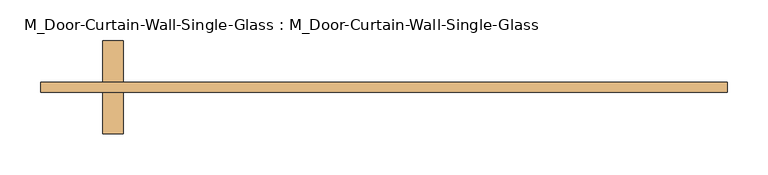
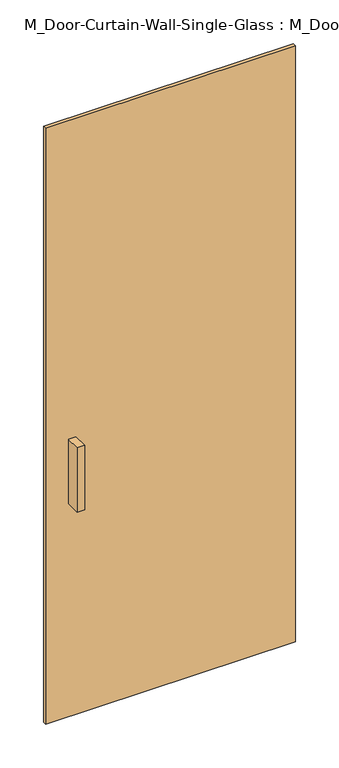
"""IFC4 building model written with IfcOpenShell, lengths in millimetres: door geometry, M_Door-Curtain-Wall-Single-Glass : M_Door-Curtain-Wall-Single-Glass."""

import ifcopenshell
import ifcopenshell.guid

model = None  # the IFC model being written
_history = None  # IfcOwnerHistory: only IFC2X3 demands one
_inside = {}  # id of a spatial element -> (the spatial element, [elements in it])
_under = {}  # id of a project, library or spatial element -> (it, [spatial elements below it])
_declared = {}  # id of a project -> (the project, [libraries it declares])
_typed = {}  # id of a type object -> (the type object, [elements of that type])
_made_of = {}  # id of a material, layer set ... -> (it, [elements and type objects made of it])


def new_model(schema):
    """Start an empty IFC model of exactly this schema.

    Asked for "IFC4X3", IfcOpenShell would pick the latest addendum, in which some entities
    have other attributes; the version numbers below select the first issue.
    IFC2X3 requires an IfcOwnerHistory on every rooted entity: one is made here for all.
    """
    global model, _history
    if schema == "IFC4X3":
        model = ifcopenshell.file(schema_version=(4, 3, 0, 0))
    else:
        model = ifcopenshell.file(schema=schema)
    _inside.clear()
    _under.clear()
    _declared.clear()
    _typed.clear()
    _made_of.clear()
    _history = None
    if model.schema == "IFC2X3":
        org = make("IfcOrganization", Name="unknown")
        user = make(
            "IfcPersonAndOrganization",
            ThePerson=make("IfcPerson", FamilyName="unknown"),
            TheOrganization=org,
        )
        app = make(
            "IfcApplication",
            ApplicationDeveloper=org,
            Version="unknown",
            ApplicationFullName="unknown",
            ApplicationIdentifier="unknown",
        )
        _history = make(
            "IfcOwnerHistory",
            OwningUser=user,
            OwningApplication=app,
            ChangeAction="ADDED",
            CreationDate=0,
        )
    return model


def make(cls, **values):
    """One entity of the class cls with the attributes given. An attribute that is None is left unset."""
    return model.create_entity(
        cls, **{name: value for name, value in values.items() if value is not None}
    )


def rooted(cls, **values):
    """An entity with a GlobalId (a new one), such as an element, a storey or a relation."""
    return make(cls, GlobalId=ifcopenshell.guid.new(), OwnerHistory=_history, **values)


def si_unit(unit_type, name, prefix=None):
    """IfcSIUnit, for example si_unit("LENGTHUNIT", "METRE", prefix="MILLI")."""
    return make("IfcSIUnit", UnitType=unit_type, Prefix=prefix, Name=name)


def assignment(units):
    """IfcUnitAssignment: the units of a project."""
    return None if units is None else make("IfcUnitAssignment", Units=units)


def point(xyz):
    """IfcCartesianPoint."""
    return None if xyz is None else make("IfcCartesianPoint", Coordinates=xyz)


def direction(xyz):
    """IfcDirection."""
    return None if xyz is None else make("IfcDirection", DirectionRatios=xyz)


def frame(location, z_axis=None, x_axis=None):
    """IfcAxis2Placement3D, a coordinate frame: its origin and axes. An axis left out is left unset."""
    return make(
        "IfcAxis2Placement3D",
        Location=point(location),
        Axis=direction(z_axis),
        RefDirection=direction(x_axis),
    )


def origin():
    """The frame at (0, 0, 0) with its axes left unset."""
    return frame((0.0, 0.0, 0.0))


def origin_with_axes():
    """The frame at (0, 0, 0) with the z axis (0, 0, 1) and the x axis (1, 0, 0) written out."""
    return frame((0.0, 0.0, 0.0), z_axis=(0.0, 0.0, 1.0), x_axis=(1.0, 0.0, 0.0))


def place(relative_to, where):
    """IfcLocalPlacement: puts the frame where relative to a parent placement (None: the world)."""
    return make(
        "IfcLocalPlacement", PlacementRelTo=relative_to, RelativePlacement=where
    )


def context(
    kind, dimensions, precision=None, world=None, true_north=None, identifier=None
):
    """IfcGeometricRepresentationContext, for example the 3D "Model" context."""
    return make(
        "IfcGeometricRepresentationContext",
        ContextIdentifier=identifier,
        ContextType=kind,
        CoordinateSpaceDimension=dimensions,
        Precision=precision,
        WorldCoordinateSystem=world,
        TrueNorth=true_north,
    )


def project(units=None, contexts=None):
    """IfcProject with its units and contexts."""
    return rooted(
        "IfcProject",
        Name="project",
        RepresentationContexts=contexts,
        UnitsInContext=assignment(units),
    )


def spatial(cls, under=None, at=None, **own):
    """A site, building, storey or space (cls), placed at a placement, below another one or the project."""
    s = rooted(cls, ObjectPlacement=at, **own)
    if under is not None:
        _under.setdefault(under.id(), (under, []))[1].append(s)
    return s


def polyline(points):
    """IfcPolyline through the points."""
    return make("IfcPolyline", Points=[point(p) for p in points])


def outline(outer, holes=None, kind="AREA"):
    """IfcArbitraryClosedProfileDef: a profile drawn as a closed curve; with holes, ...WithVoids."""
    if holes is None:
        return make("IfcArbitraryClosedProfileDef", ProfileType=kind, OuterCurve=outer)
    return make(
        "IfcArbitraryProfileDefWithVoids",
        ProfileType=kind,
        OuterCurve=outer,
        InnerCurves=holes,
    )


def extrude(swept, where, along, depth):
    """IfcExtrudedAreaSolid: the profile swept, set in the frame where, extruded along a direction by depth."""
    return make(
        "IfcExtrudedAreaSolid",
        SweptArea=swept,
        Position=where,
        ExtrudedDirection=direction(along),
        Depth=depth,
    )


def shape(context_of_items, identifier, shape_type, items):
    """IfcShapeRepresentation: the items that make up one representation, for example the "Body"."""
    return make(
        "IfcShapeRepresentation",
        ContextOfItems=context_of_items,
        RepresentationIdentifier=identifier,
        RepresentationType=shape_type,
        Items=items,
    )


def source(mapping_origin, context_of_items, identifier, shape_type, items):
    """IfcRepresentationMap: a shape defined once, which mapped items show again and again."""
    return make(
        "IfcRepresentationMap",
        MappingOrigin=mapping_origin,
        MappedRepresentation=shape(context_of_items, identifier, shape_type, items),
    )


def transform(
    local_origin,
    x_axis=None,
    y_axis=None,
    z_axis=None,
    scale=None,
    scale2=None,
    scale3=None,
    uniform=True,
):
    """IfcCartesianTransformationOperator3D, or its non-uniform kind. x_axis, y_axis, z_axis: its Axis1, 2, 3."""
    if uniform:
        return make(
            "IfcCartesianTransformationOperator3D",
            Axis1=direction(x_axis),
            Axis2=direction(y_axis),
            LocalOrigin=point(local_origin),
            Scale=scale,
            Axis3=direction(z_axis),
        )
    return make(
        "IfcCartesianTransformationOperator3DnonUniform",
        Axis1=direction(x_axis),
        Axis2=direction(y_axis),
        LocalOrigin=point(local_origin),
        Scale=scale,
        Axis3=direction(z_axis),
        Scale2=scale2,
        Scale3=scale3,
    )


def mapped(mapping_source, mapping_target):
    """IfcMappedItem: shows the shape of a source again, moved by a transform."""
    return make(
        "IfcMappedItem", MappingSource=mapping_source, MappingTarget=mapping_target
    )


def made_of(thing, what):
    """Note that an element or type object is made of a material, layer set ...; save() writes the relation."""
    if what is not None:
        _made_of.setdefault(what.id(), (what, []))[1].append(thing)
    return thing


def element(
    cls,
    number,
    at=None,
    inside=None,
    cuts=None,
    type_object=None,
    material=None,
    context=None,
    identifier="Body",
    shape_type=None,
    held_by="IfcProductDefinitionShape",
    body=None,
    shapes=None,
    **own,
):
    """One element of the class cls, such as IfcWall. Its Tag is "e" and its number.

    at: its placement. inside: the storey or other place that contains it. cuts: it is an
    opening in that element (IfcRelVoidsElement). A single representation is given by context,
    identifier, shape_type and body (its items); several are given by shapes. held_by: the class
    of the entity that holds the representations. save() writes the other relations.
    """
    e = rooted(cls, Tag="e%d" % number, ObjectPlacement=at, **own)
    if body is not None:
        shapes = [shape(context, identifier, shape_type, body)]
    if shapes is not None:
        e.Representation = make(held_by, Representations=shapes)
    if inside is not None:
        _inside.setdefault(inside.id(), (inside, []))[1].append(e)
    if cuts is not None:
        rooted(
            "IfcRelVoidsElement", RelatingBuildingElement=cuts, RelatedOpeningElement=e
        )
    if type_object is not None:
        _typed.setdefault(type_object.id(), (type_object, []))[1].append(e)
    return made_of(e, material)


def aggregate(whole, parts):
    """IfcRelAggregates: a whole, such as a stair, and the parts it consists of."""
    return rooted("IfcRelAggregates", RelatingObject=whole, RelatedObjects=parts)


def save(model, path):
    """Write the relations noted so far, then the file.

    IfcRelAggregates (storeys below a building ...), IfcRelContainedInSpatialStructure (elements
    in a storey), IfcRelDefinesByType, IfcRelAssociatesMaterial and IfcRelDeclares: one each for
    every whole, place, type object, material and project.
    """
    for whole, parts in _under.values():
        aggregate(whole, parts)
    for where, things in _inside.values():
        rooted(
            "IfcRelContainedInSpatialStructure",
            RelatedElements=things,
            RelatingStructure=where,
        )
    for kind, things in _typed.values():
        rooted("IfcRelDefinesByType", RelatedObjects=things, RelatingType=kind)
    for what, things in _made_of.values():
        rooted("IfcRelAssociatesMaterial", RelatedObjects=things, RelatingMaterial=what)
    for by, libraries in _declared.values():
        rooted("IfcRelDeclares", RelatingContext=by, RelatedDefinitions=libraries)
    model.write(path)


def m_door_curtain_wall_single_glass_m_door_curtain_wall_single_c3f88e89(model_context):
    return source(origin(), model_context, "Body", "SweptSolid", [
        extrude(outline(polyline([(421.6666667, 50.8), (421.6666667, 38.1), (-421.6666667, 38.1), (-421.6666667, 50.8), (421.6666667, 50.8)])), origin_with_axes(), (0.0, 0.0, 1.0), 2126.0),
        extrude(outline(polyline([(-320.0666667, -12.7), (-345.4666667, -12.7), (-345.4666667, 38.1), (-320.0666667, 38.1), (-320.0666667, -12.7)])), frame((0.0, 0.0, 762.0), z_axis=(0.0, 0.0, 1.0), x_axis=(1.0, 0.0, 0.0)), (0.0, 0.0, 1.0), 228.6),
        extrude(outline(polyline([(-345.4666667, 101.6), (-320.0666667, 101.6), (-320.0666667, 50.8), (-345.4666667, 50.8), (-345.4666667, 101.6)])), frame((0.0, 0.0, 762.0), z_axis=(0.0, 0.0, 1.0), x_axis=(1.0, 0.0, 0.0)), (0.0, 0.0, 1.0), 228.6),
    ])


if __name__ == "__main__":
    model = new_model("IFC4")
    model_context = context("Model", 3, world=origin())
    ifc_project = project(units=[si_unit("LENGTHUNIT", "METRE", prefix="MILLI")], contexts=[model_context])
    site = spatial("IfcSite", under=ifc_project)
    building = spatial("IfcBuilding", under=site)
    placement = place(None, origin())
    m_door_curtain_wall_single_glass_m_door_curtain_wall_single_shape = m_door_curtain_wall_single_glass_m_door_curtain_wall_single_c3f88e89(model_context)
    element("IfcDoor", 1, ObjectType="M_Door-Curtain-Wall-Single-Glass : M_Door-Curtain-Wall-Single-Glass", at=placement, inside=building, context=model_context, shape_type="MappedRepresentation", body=[
        mapped(m_door_curtain_wall_single_glass_m_door_curtain_wall_single_shape, transform((0.0, 0.0, 0.0), x_axis=(1.0, 0.0, 0.0), y_axis=(0.0, 1.0, 0.0), z_axis=(0.0, 0.0, 1.0))),
    ])
    save(model, "model.ifc")
